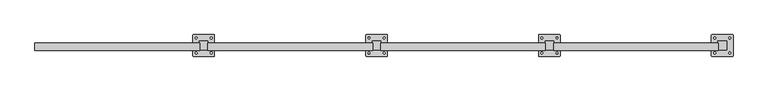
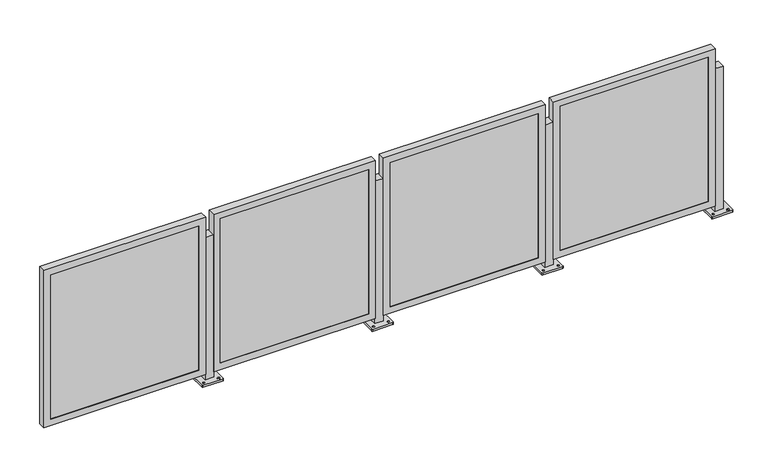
"""IFC4 building model written with IfcOpenShell, lengths in millimetres: railing geometry, Railing - Amico Architectural - Perforated Railing - Apex02."""

from ifc_helpers import new_model, si_unit, frame, origin, place, context, project, spatial, polyline, circle_curve, outline, extrude, faceted_brep, source, transform, mapped, element, save
from ifc_brep_helpers import plane_surface, cylinder_surface, revolved_surface, advanced_brep


def railing_0f50bcc0(model_context):
    return source(origin(), model_context, "Body", "SolidModel", [
        advanced_brep(
        [(-18857.3286619, -908.4679764, 914.4), (-18857.3286619, -959.2679764, 914.4), (-18806.5286619, -959.2679764, 914.4), (-18806.5286619, -908.4679764, 914.4), (-18895.428662, -994.1929354, 0.0), (-18895.428662, -873.5430174, 0.0), (-18892.2536339, -870.3679893, 0.0), (-18771.6036899, -870.3679893, 0.0), (-18768.4286617, -873.5430174, 0.0), (-18768.4286617, -994.1929354, 0.0), (-18771.6036899, -997.3679635, 0.0), (-18892.2536339, -997.3679635, 0.0), (-18876.3786494, -983.874231, 0.0), (-18876.3786494, -972.7617186, 0.0), (-18876.3786603, -894.9742267, 0.0), (-18876.3786603, -883.8617451, 0.0), (-18787.4786485, -983.8742295, 0.0), (-18787.4786485, -972.7617189, 0.0), (-18787.4786594, -894.9742251, 0.0), (-18787.4786594, -883.8617453, 0.0), (-18857.3286619, -908.4679764, 12.7), (-18857.3286619, -959.2679764, 12.7), (-18806.5286619, -959.2679764, 12.7), (-18806.5286619, -908.4679764, 12.7), (-18895.428662, -994.1929354, 12.7), (-18892.2536339, -997.3679635, 12.7), (-18771.6036899, -997.3679635, 12.7), (-18768.4286617, -994.1929354, 12.7), (-18768.4286617, -873.5430174, 12.7), (-18771.6036899, -870.3679893, 12.7), (-18892.2536339, -870.3679893, 12.7), (-18895.428662, -873.5430174, 12.7), (-18876.3786494, -983.874231, 12.7), (-18876.3786494, -972.7617186, 12.7), (-18876.3786603, -894.9742267, 12.7), (-18876.3786603, -883.8617451, 12.7), (-18787.4786485, -983.8742295, 12.7), (-18787.4786485, -972.7617189, 12.7), (-18787.4786594, -894.9742251, 12.7), (-18787.4786594, -883.8617453, 12.7)],
        [
            (0, 1),
            (1, 2),
            (2, 3),
            (3, 0),
            (4, 5),
            (5, 6, circle_curve(frame((-18892.2536339, -873.5430174, 0.0), z_axis=(0.0, 0.0, -1.0), x_axis=(0.0, 1.0, 0.0)), 3.1750282)),
            (6, 7),
            (7, 8, circle_curve(frame((-18771.6036899, -873.5430174, 0.0), z_axis=(0.0, 0.0, -1.0), x_axis=(0.0, 1.0, 0.0)), 3.1750282)),
            (8, 9),
            (9, 10, circle_curve(frame((-18771.6036899, -994.1929354, 0.0), z_axis=(0.0, 0.0, -1.0), x_axis=(0.0, 1.0, 0.0)), 3.1750282)),
            (10, 11),
            (11, 4, circle_curve(frame((-18892.2536339, -994.1929354, 0.0), z_axis=(0.0, 0.0, -1.0), x_axis=(0.0, 1.0, 0.0)), 3.1750282)),
            (12, 13, circle_curve(frame((-18876.3786494, -978.3179748, 0.0), z_axis=(0.0, 0.0, 1.0), x_axis=(0.0, 1.0, 0.0)), 5.5562562)),
            (13, 12, circle_curve(frame((-18876.3786494, -978.3179748, 0.0), z_axis=(0.0, 0.0, 1.0), x_axis=(0.0, 1.0, 0.0)), 5.5562562)),
            (14, 15, circle_curve(frame((-18876.3786603, -889.4179859, 0.0), z_axis=(0.0, 0.0, 1.0), x_axis=(0.0, 1.0, 0.0)), 5.5562408)),
            (15, 14, circle_curve(frame((-18876.3786603, -889.4179859, 0.0), z_axis=(0.0, 0.0, 1.0), x_axis=(0.0, 1.0, 0.0)), 5.5562408)),
            (16, 17, circle_curve(frame((-18787.4786485, -978.3179742, 0.0), z_axis=(0.0, 0.0, 1.0), x_axis=(0.0, 1.0, 0.0)), 5.5562553)),
            (17, 16, circle_curve(frame((-18787.4786485, -978.3179742, 0.0), z_axis=(0.0, 0.0, 1.0), x_axis=(0.0, 1.0, 0.0)), 5.5562553)),
            (18, 19, circle_curve(frame((-18787.4786594, -889.4179852, 0.0), z_axis=(0.0, 0.0, 1.0), x_axis=(0.0, 1.0, 0.0)), 5.5562399)),
            (19, 18, circle_curve(frame((-18787.4786594, -889.4179852, 0.0), z_axis=(0.0, 0.0, 1.0), x_axis=(0.0, 1.0, 0.0)), 5.5562399)),
            (0, 20),
            (20, 21),
            (21, 1),
            (21, 22),
            (22, 2),
            (22, 23),
            (23, 3),
            (23, 20),
            (24, 25, circle_curve(frame((-18892.2536339, -994.1929354, 12.7), z_axis=(0.0, 0.0, 1.0), x_axis=(0.0, 1.0, 0.0)), 3.1750282)),
            (25, 26),
            (26, 27, circle_curve(frame((-18771.6036899, -994.1929354, 12.7), z_axis=(0.0, 0.0, 1.0), x_axis=(0.0, 1.0, 0.0)), 3.1750282)),
            (27, 28),
            (28, 29, circle_curve(frame((-18771.6036899, -873.5430174, 12.7), z_axis=(0.0, 0.0, 1.0), x_axis=(0.0, 1.0, 0.0)), 3.1750282)),
            (29, 30),
            (30, 31, circle_curve(frame((-18892.2536339, -873.5430174, 12.7), z_axis=(0.0, 0.0, 1.0), x_axis=(0.0, 1.0, 0.0)), 3.1750282)),
            (31, 24),
            (32, 33, circle_curve(frame((-18876.3786494, -978.3179748, 12.7), z_axis=(0.0, 0.0, -1.0), x_axis=(0.0, 1.0, 0.0)), 5.5562562)),
            (33, 32, circle_curve(frame((-18876.3786494, -978.3179748, 12.7), z_axis=(0.0, 0.0, -1.0), x_axis=(0.0, 1.0, 0.0)), 5.5562562)),
            (34, 35, circle_curve(frame((-18876.3786603, -889.4179859, 12.7), z_axis=(0.0, 0.0, -1.0), x_axis=(0.0, 1.0, 0.0)), 5.5562408)),
            (35, 34, circle_curve(frame((-18876.3786603, -889.4179859, 12.7), z_axis=(0.0, 0.0, -1.0), x_axis=(0.0, 1.0, 0.0)), 5.5562408)),
            (36, 37, circle_curve(frame((-18787.4786485, -978.3179742, 12.7), z_axis=(0.0, 0.0, -1.0), x_axis=(0.0, 1.0, 0.0)), 5.5562553)),
            (37, 36, circle_curve(frame((-18787.4786485, -978.3179742, 12.7), z_axis=(0.0, 0.0, -1.0), x_axis=(0.0, 1.0, 0.0)), 5.5562553)),
            (38, 39, circle_curve(frame((-18787.4786594, -889.4179852, 12.7), z_axis=(0.0, 0.0, -1.0), x_axis=(0.0, 1.0, 0.0)), 5.5562399)),
            (39, 38, circle_curve(frame((-18787.4786594, -889.4179852, 12.7), z_axis=(0.0, 0.0, -1.0), x_axis=(0.0, 1.0, 0.0)), 5.5562399)),
            (24, 4),
            (11, 25),
            (10, 26),
            (9, 27),
            (8, 28),
            (7, 29),
            (6, 30),
            (5, 31),
            (32, 12),
            (13, 33),
            (34, 14),
            (15, 35),
            (36, 16),
            (17, 37),
            (38, 18),
            (19, 39),
        ],
        [
            plane_surface(frame((-18857.3286619, -959.2679764, 914.4), z_axis=(0.0, 0.0, 1.0), x_axis=(0.0, -1.0, 0.0))),
            plane_surface(frame((-18857.3286619, -959.2679764, 0.0), z_axis=(0.0, 0.0, -1.0), x_axis=(0.0, 1.0, 0.0))),
            plane_surface(frame((-18857.3286619, -908.4679764, 914.4), z_axis=(-1.0, 0.0, 0.0), x_axis=(0.0, 0.0, -1.0))),
            plane_surface(frame((-18857.3286619, -959.2679764, 914.4), z_axis=(0.0, -1.0, 0.0), x_axis=(0.0, 0.0, -1.0))),
            plane_surface(frame((-18806.5286619, -959.2679764, 914.4), z_axis=(1.0, 0.0, 0.0), x_axis=(0.0, 0.0, -1.0))),
            plane_surface(frame((-18806.5286619, -908.4679764, 914.4), z_axis=(0.0, 1.0, 0.0), x_axis=(0.0, 0.0, -1.0))),
            plane_surface(frame((-18892.2536339, -991.0179072, 12.7), z_axis=(0.0, 0.0, 1.0), x_axis=(-1.0, 0.0, 0.0))),
            cylinder_surface(frame((-18892.2536339, -994.1929354, 0.0), z_axis=(0.0, 0.0, 1.0), x_axis=(0.0, 1.0, 0.0)), 3.1750282),
            plane_surface(frame((-18892.2536339, -997.3679635, 12.7), z_axis=(1.1945386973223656e-12, -1.0, 0.0), x_axis=(0.0, 0.0, -1.0))),
            cylinder_surface(frame((-18771.6036899, -994.1929354, 0.0), z_axis=(0.0, 0.0, 1.0), x_axis=(0.0, 1.0, 0.0)), 3.1750282),
            plane_surface(frame((-18768.4286617, -994.1929354, 12.7), z_axis=(1.0, 0.0, 0.0), x_axis=(0.0, 0.0, -1.0))),
            cylinder_surface(frame((-18771.6036899, -873.5430174, 0.0), z_axis=(0.0, 0.0, 1.0), x_axis=(0.0, 1.0, 0.0)), 3.1750282),
            plane_surface(frame((-18771.6036899, -870.3679893, 12.7), z_axis=(-1.1946088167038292e-12, 1.0, 0.0), x_axis=(0.0, 0.0, -1.0))),
            cylinder_surface(frame((-18892.2536339, -873.5430174, 0.0), z_axis=(0.0, 0.0, 1.0), x_axis=(0.0, 1.0, 0.0)), 3.1750282),
            plane_surface(frame((-18895.428662, -873.5430174, 12.7), z_axis=(-1.0, 0.0, 0.0), x_axis=(0.0, 0.0, -1.0))),
            revolved_surface(polyline([(-18876.3786494, -972.7617186, 0.0), (-18876.3786494, -972.7617186, 12.7)]), (-18876.3786494, -978.3179748, 0.0), (0.0, 0.0, -1.0)),
            revolved_surface(polyline([(-18876.3786603, -883.8617451, 0.0), (-18876.3786603, -883.8617451, 12.7)]), (-18876.3786603, -889.4179859, 0.0), (0.0, 0.0, -1.0)),
            revolved_surface(polyline([(-18787.4786485, -972.7617189, 0.0), (-18787.4786485, -972.7617189, 12.7)]), (-18787.4786485, -978.3179742, 0.0), (0.0, 0.0, -1.0)),
            revolved_surface(polyline([(-18787.4786594, -883.8617452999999, 0.0), (-18787.4786594, -883.8617452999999, 12.7)]), (-18787.4786594, -889.4179852, 0.0), (0.0, 0.0, -1.0)),
        ],
        [
            (0, [[1, 2, 3, 4]]),
            (1, [[5, 6, 7, 8, 9, 10, 11, 12], [13, 14], [15, 16], [17, 18], [19, 20]]),
            (2, [[-1, 21, 22, 23]]),
            (3, [[-2, -23, 24, 25]]),
            (4, [[-3, -25, 26, 27]]),
            (5, [[-4, -27, 28, -21]]),
            (6, [[29, 30, 31, 32, 33, 34, 35, 36], [-22, -28, -26, -24], [37, 38], [39, 40], [41, 42], [43, 44]]),
            (7, [[-29, 45, -12, 46]]),
            (8, [[-30, -46, -11, 47]]),
            (9, [[-31, -47, -10, 48]]),
            (10, [[-32, -48, -9, 49]]),
            (11, [[-33, -49, -8, 50]]),
            (12, [[-34, -50, -7, 51]]),
            (13, [[-35, -51, -6, 52]]),
            (14, [[-36, -52, -5, -45]]),
            (15, [[-37, 53, -14, 54]]),
            (15, [[-38, -54, -13, -53]]),
            (16, [[-39, 55, -16, 56]]),
            (16, [[-40, -56, -15, -55]]),
            (17, [[-41, 57, -18, 58]]),
            (17, [[-42, -58, -17, -57]]),
            (18, [[-43, 59, -20, 60]]),
            (18, [[-44, -60, -19, -59]]),
        ],
    ),
        faceted_brep([(-19823.7331153, -962.0111764, 47.625), (-18855.3581153, -962.0111764, 47.625), (-18855.3581153, -962.0111764, 1044.575), (-19823.7331153, -962.0111764, 1044.575), (-19782.4581153, -962.0111764, 1003.3), (-18896.6331153, -962.0111764, 1003.3), (-18896.6331153, -962.0111764, 88.9), (-19782.4581153, -962.0111764, 88.9), (-19782.4581153, -959.2679764, 1003.3), (-19782.4581153, -959.2679764, 88.9), (-19823.7331153, -918.1378799, 1044.575), (-19823.7331153, -918.1378799, 47.625), (-19820.5581153, -918.1378799, 1041.4), (-19820.5581153, -959.2679764, 1041.4), (-19820.5581153, -959.2679764, 50.8), (-19820.5581153, -918.1378799, 50.8), (-18896.6331153, -959.2679764, 88.9), (-18855.3581153, -918.1378799, 47.625), (-18858.5331153, -959.2679764, 50.8), (-18858.5331153, -918.1378799, 50.8), (-18896.6331153, -959.2679764, 1003.3), (-18855.3581153, -918.1378799, 1044.575), (-18858.5331153, -959.2679764, 1041.4), (-18858.5331153, -918.1378799, 1041.4)], [[[0, 1, 2, 3], [4, 5, 6, 7]], [[8, 4, 7, 9]], [[3, 10, 11, 0]], [[12, 13, 14, 15]], [[9, 7, 6, 16]], [[0, 11, 17, 1]], [[15, 14, 18, 19]], [[16, 6, 5, 20]], [[1, 17, 21, 2]], [[19, 18, 22, 23]], [[20, 5, 4, 8]], [[10, 21, 17, 11], [15, 19, 23, 12]], [[2, 21, 10, 3]], [[13, 22, 18, 14], [9, 16, 20, 8]], [[23, 22, 13, 12]]]),
        extrude(outline(polyline([(-19820.5581153, -949.7429764), (-18858.5331153, -949.7429764), (-18858.5331153, -959.2679764), (-19820.5581153, -959.2679764), (-19820.5581153, -949.7429764)])), frame((0.0, 0.0, 50.8), z_axis=(0.0, 0.0, 1.0), x_axis=(1.0, 0.0, 0.0)), (0.0, 0.0, 1.0), 990.6),
        advanced_brep(
        [(-19873.3286619, -908.4679764, 914.4), (-19873.3286619, -959.2679764, 914.4), (-19822.5286619, -959.2679764, 914.4), (-19822.5286619, -908.4679764, 914.4), (-19911.428662, -994.1929354, 0.0), (-19911.428662, -873.5430174, 0.0), (-19908.2536339, -870.3679893, 0.0), (-19787.6036899, -870.3679893, 0.0), (-19784.4286617, -873.5430174, 0.0), (-19784.4286617, -994.1929354, 0.0), (-19787.6036899, -997.3679635, 0.0), (-19908.2536339, -997.3679635, 0.0), (-19892.3786494, -983.874231, 0.0), (-19892.3786494, -972.7617186, 0.0), (-19892.3786603, -894.9742267, 0.0), (-19892.3786603, -883.8617451, 0.0), (-19803.4786485, -983.8742295, 0.0), (-19803.4786485, -972.7617189, 0.0), (-19803.4786594, -894.9742251, 0.0), (-19803.4786594, -883.8617453, 0.0), (-19873.3286619, -908.4679764, 12.7), (-19873.3286619, -959.2679764, 12.7), (-19822.5286619, -959.2679764, 12.7), (-19822.5286619, -908.4679764, 12.7), (-19911.428662, -994.1929354, 12.7), (-19908.2536339, -997.3679635, 12.7), (-19787.6036899, -997.3679635, 12.7), (-19784.4286617, -994.1929354, 12.7), (-19784.4286617, -873.5430174, 12.7), (-19787.6036899, -870.3679893, 12.7), (-19908.2536339, -870.3679893, 12.7), (-19911.428662, -873.5430174, 12.7), (-19892.3786494, -983.874231, 12.7), (-19892.3786494, -972.7617186, 12.7), (-19892.3786603, -894.9742267, 12.7), (-19892.3786603, -883.8617451, 12.7), (-19803.4786485, -983.8742295, 12.7), (-19803.4786485, -972.7617189, 12.7), (-19803.4786594, -894.9742251, 12.7), (-19803.4786594, -883.8617453, 12.7)],
        [
            (0, 1),
            (1, 2),
            (2, 3),
            (3, 0),
            (4, 5),
            (5, 6, circle_curve(frame((-19908.2536339, -873.5430174, 0.0), z_axis=(0.0, 0.0, -1.0), x_axis=(0.0, 1.0, 0.0)), 3.1750282)),
            (6, 7),
            (7, 8, circle_curve(frame((-19787.6036899, -873.5430174, 0.0), z_axis=(0.0, 0.0, -1.0), x_axis=(0.0, 1.0, 0.0)), 3.1750282)),
            (8, 9),
            (9, 10, circle_curve(frame((-19787.6036899, -994.1929354, 0.0), z_axis=(0.0, 0.0, -1.0), x_axis=(0.0, 1.0, 0.0)), 3.1750282)),
            (10, 11),
            (11, 4, circle_curve(frame((-19908.2536339, -994.1929354, 0.0), z_axis=(0.0, 0.0, -1.0), x_axis=(0.0, 1.0, 0.0)), 3.1750282)),
            (12, 13, circle_curve(frame((-19892.3786494, -978.3179748, 0.0), z_axis=(0.0, 0.0, 1.0), x_axis=(0.0, 1.0, 0.0)), 5.5562562)),
            (13, 12, circle_curve(frame((-19892.3786494, -978.3179748, 0.0), z_axis=(0.0, 0.0, 1.0), x_axis=(0.0, 1.0, 0.0)), 5.5562562)),
            (14, 15, circle_curve(frame((-19892.3786603, -889.4179859, 0.0), z_axis=(0.0, 0.0, 1.0), x_axis=(0.0, 1.0, 0.0)), 5.5562408)),
            (15, 14, circle_curve(frame((-19892.3786603, -889.4179859, 0.0), z_axis=(0.0, 0.0, 1.0), x_axis=(0.0, 1.0, 0.0)), 5.5562408)),
            (16, 17, circle_curve(frame((-19803.4786485, -978.3179742, 0.0), z_axis=(0.0, 0.0, 1.0), x_axis=(0.0, 1.0, 0.0)), 5.5562553)),
            (17, 16, circle_curve(frame((-19803.4786485, -978.3179742, 0.0), z_axis=(0.0, 0.0, 1.0), x_axis=(0.0, 1.0, 0.0)), 5.5562553)),
            (18, 19, circle_curve(frame((-19803.4786594, -889.4179852, 0.0), z_axis=(0.0, 0.0, 1.0), x_axis=(0.0, 1.0, 0.0)), 5.5562399)),
            (19, 18, circle_curve(frame((-19803.4786594, -889.4179852, 0.0), z_axis=(0.0, 0.0, 1.0), x_axis=(0.0, 1.0, 0.0)), 5.5562399)),
            (0, 20),
            (20, 21),
            (21, 1),
            (21, 22),
            (22, 2),
            (22, 23),
            (23, 3),
            (23, 20),
            (24, 25, circle_curve(frame((-19908.2536339, -994.1929354, 12.7), z_axis=(0.0, 0.0, 1.0), x_axis=(0.0, 1.0, 0.0)), 3.1750282)),
            (25, 26),
            (26, 27, circle_curve(frame((-19787.6036899, -994.1929354, 12.7), z_axis=(0.0, 0.0, 1.0), x_axis=(0.0, 1.0, 0.0)), 3.1750282)),
            (27, 28),
            (28, 29, circle_curve(frame((-19787.6036899, -873.5430174, 12.7), z_axis=(0.0, 0.0, 1.0), x_axis=(0.0, 1.0, 0.0)), 3.1750282)),
            (29, 30),
            (30, 31, circle_curve(frame((-19908.2536339, -873.5430174, 12.7), z_axis=(0.0, 0.0, 1.0), x_axis=(0.0, 1.0, 0.0)), 3.1750282)),
            (31, 24),
            (32, 33, circle_curve(frame((-19892.3786494, -978.3179748, 12.7), z_axis=(0.0, 0.0, -1.0), x_axis=(0.0, 1.0, 0.0)), 5.5562562)),
            (33, 32, circle_curve(frame((-19892.3786494, -978.3179748, 12.7), z_axis=(0.0, 0.0, -1.0), x_axis=(0.0, 1.0, 0.0)), 5.5562562)),
            (34, 35, circle_curve(frame((-19892.3786603, -889.4179859, 12.7), z_axis=(0.0, 0.0, -1.0), x_axis=(0.0, 1.0, 0.0)), 5.5562408)),
            (35, 34, circle_curve(frame((-19892.3786603, -889.4179859, 12.7), z_axis=(0.0, 0.0, -1.0), x_axis=(0.0, 1.0, 0.0)), 5.5562408)),
            (36, 37, circle_curve(frame((-19803.4786485, -978.3179742, 12.7), z_axis=(0.0, 0.0, -1.0), x_axis=(0.0, 1.0, 0.0)), 5.5562553)),
            (37, 36, circle_curve(frame((-19803.4786485, -978.3179742, 12.7), z_axis=(0.0, 0.0, -1.0), x_axis=(0.0, 1.0, 0.0)), 5.5562553)),
            (38, 39, circle_curve(frame((-19803.4786594, -889.4179852, 12.7), z_axis=(0.0, 0.0, -1.0), x_axis=(0.0, 1.0, 0.0)), 5.5562399)),
            (39, 38, circle_curve(frame((-19803.4786594, -889.4179852, 12.7), z_axis=(0.0, 0.0, -1.0), x_axis=(0.0, 1.0, 0.0)), 5.5562399)),
            (24, 4),
            (11, 25),
            (10, 26),
            (9, 27),
            (8, 28),
            (7, 29),
            (6, 30),
            (5, 31),
            (32, 12),
            (13, 33),
            (34, 14),
            (15, 35),
            (36, 16),
            (17, 37),
            (38, 18),
            (19, 39),
        ],
        [
            plane_surface(frame((-19873.3286619, -959.2679764, 914.4), z_axis=(0.0, 0.0, 1.0), x_axis=(0.0, -1.0, 0.0))),
            plane_surface(frame((-19873.3286619, -959.2679764, 0.0), z_axis=(0.0, 0.0, -1.0), x_axis=(0.0, 1.0, 0.0))),
            plane_surface(frame((-19873.3286619, -908.4679764, 914.4), z_axis=(-1.0, 0.0, 0.0), x_axis=(0.0, 0.0, -1.0))),
            plane_surface(frame((-19873.3286619, -959.2679764, 914.4), z_axis=(0.0, -1.0, 0.0), x_axis=(0.0, 0.0, -1.0))),
            plane_surface(frame((-19822.5286619, -959.2679764, 914.4), z_axis=(1.0, 0.0, 0.0), x_axis=(0.0, 0.0, -1.0))),
            plane_surface(frame((-19822.5286619, -908.4679764, 914.4), z_axis=(0.0, 1.0, 0.0), x_axis=(0.0, 0.0, -1.0))),
            plane_surface(frame((-19908.2536339, -991.0179072, 12.7), z_axis=(0.0, 0.0, 1.0), x_axis=(-1.0, 0.0, 0.0))),
            cylinder_surface(frame((-19908.2536339, -994.1929354, 0.0), z_axis=(0.0, 0.0, 1.0), x_axis=(0.0, 1.0, 0.0)), 3.1750282),
            plane_surface(frame((-19908.2536339, -997.3679635, 12.7), z_axis=(1.1945386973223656e-12, -1.0, 0.0), x_axis=(0.0, 0.0, -1.0))),
            cylinder_surface(frame((-19787.6036899, -994.1929354, 0.0), z_axis=(0.0, 0.0, 1.0), x_axis=(0.0, 1.0, 0.0)), 3.1750282),
            plane_surface(frame((-19784.4286617, -994.1929354, 12.7), z_axis=(1.0, 0.0, 0.0), x_axis=(0.0, 0.0, -1.0))),
            cylinder_surface(frame((-19787.6036899, -873.5430174, 0.0), z_axis=(0.0, 0.0, 1.0), x_axis=(0.0, 1.0, 0.0)), 3.1750282),
            plane_surface(frame((-19787.6036899, -870.3679893, 12.7), z_axis=(-1.1946088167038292e-12, 1.0, 0.0), x_axis=(0.0, 0.0, -1.0))),
            cylinder_surface(frame((-19908.2536339, -873.5430174, 0.0), z_axis=(0.0, 0.0, 1.0), x_axis=(0.0, 1.0, 0.0)), 3.1750282),
            plane_surface(frame((-19911.428662, -873.5430174, 12.7), z_axis=(-1.0, 0.0, 0.0), x_axis=(0.0, 0.0, -1.0))),
            revolved_surface(polyline([(-19892.3786494, -972.7617186, 0.0), (-19892.3786494, -972.7617186, 12.7)]), (-19892.3786494, -978.3179748, 0.0), (0.0, 0.0, -1.0)),
            revolved_surface(polyline([(-19892.3786603, -883.8617451, 0.0), (-19892.3786603, -883.8617451, 12.7)]), (-19892.3786603, -889.4179859, 0.0), (0.0, 0.0, -1.0)),
            revolved_surface(polyline([(-19803.4786485, -972.7617189, 0.0), (-19803.4786485, -972.7617189, 12.7)]), (-19803.4786485, -978.3179742, 0.0), (0.0, 0.0, -1.0)),
            revolved_surface(polyline([(-19803.4786594, -883.8617452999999, 0.0), (-19803.4786594, -883.8617452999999, 12.7)]), (-19803.4786594, -889.4179852, 0.0), (0.0, 0.0, -1.0)),
        ],
        [
            (0, [[1, 2, 3, 4]]),
            (1, [[5, 6, 7, 8, 9, 10, 11, 12], [13, 14], [15, 16], [17, 18], [19, 20]]),
            (2, [[-1, 21, 22, 23]]),
            (3, [[-2, -23, 24, 25]]),
            (4, [[-3, -25, 26, 27]]),
            (5, [[-4, -27, 28, -21]]),
            (6, [[29, 30, 31, 32, 33, 34, 35, 36], [-22, -28, -26, -24], [37, 38], [39, 40], [41, 42], [43, 44]]),
            (7, [[-29, 45, -12, 46]]),
            (8, [[-30, -46, -11, 47]]),
            (9, [[-31, -47, -10, 48]]),
            (10, [[-32, -48, -9, 49]]),
            (11, [[-33, -49, -8, 50]]),
            (12, [[-34, -50, -7, 51]]),
            (13, [[-35, -51, -6, 52]]),
            (14, [[-36, -52, -5, -45]]),
            (15, [[-37, 53, -14, 54]]),
            (15, [[-38, -54, -13, -53]]),
            (16, [[-39, 55, -16, 56]]),
            (16, [[-40, -56, -15, -55]]),
            (17, [[-41, 57, -18, 58]]),
            (17, [[-42, -58, -17, -57]]),
            (18, [[-43, 59, -20, 60]]),
            (18, [[-44, -60, -19, -59]]),
        ],
    ),
        faceted_brep([(-20839.7331153, -962.0111764, 47.625), (-19871.3581153, -962.0111764, 47.625), (-19871.3581153, -962.0111764, 1044.575), (-20839.7331153, -962.0111764, 1044.575), (-20798.4581153, -962.0111764, 1003.3), (-19912.6331153, -962.0111764, 1003.3), (-19912.6331153, -962.0111764, 88.9), (-20798.4581153, -962.0111764, 88.9), (-20798.4581153, -959.2679764, 1003.3), (-20798.4581153, -959.2679764, 88.9), (-20839.7331153, -918.1378799, 1044.575), (-20839.7331153, -918.1378799, 47.625), (-20836.5581153, -918.1378799, 1041.4), (-20836.5581153, -959.2679764, 1041.4), (-20836.5581153, -959.2679764, 50.8), (-20836.5581153, -918.1378799, 50.8), (-19912.6331153, -959.2679764, 88.9), (-19871.3581153, -918.1378799, 47.625), (-19874.5331153, -959.2679764, 50.8), (-19874.5331153, -918.1378799, 50.8), (-19912.6331153, -959.2679764, 1003.3), (-19871.3581153, -918.1378799, 1044.575), (-19874.5331153, -959.2679764, 1041.4), (-19874.5331153, -918.1378799, 1041.4)], [[[0, 1, 2, 3], [4, 5, 6, 7]], [[8, 4, 7, 9]], [[3, 10, 11, 0]], [[12, 13, 14, 15]], [[9, 7, 6, 16]], [[0, 11, 17, 1]], [[15, 14, 18, 19]], [[16, 6, 5, 20]], [[1, 17, 21, 2]], [[19, 18, 22, 23]], [[20, 5, 4, 8]], [[10, 21, 17, 11], [15, 19, 23, 12]], [[2, 21, 10, 3]], [[13, 22, 18, 14], [9, 16, 20, 8]], [[23, 22, 13, 12]]]),
        extrude(outline(polyline([(-20836.5581153, -949.7429764), (-19874.5331153, -949.7429764), (-19874.5331153, -959.2679764), (-20836.5581153, -959.2679764), (-20836.5581153, -949.7429764)])), frame((0.0, 0.0, 50.8), z_axis=(0.0, 0.0, 1.0), x_axis=(1.0, 0.0, 0.0)), (0.0, 0.0, 1.0), 990.6),
        advanced_brep(
        [(-20889.3286619, -908.4679764, 914.4), (-20889.3286619, -959.2679764, 914.4), (-20838.5286619, -959.2679764, 914.4), (-20838.5286619, -908.4679764, 914.4), (-20927.428662, -994.1929354, 0.0), (-20927.428662, -873.5430174, 0.0), (-20924.2536339, -870.3679893, 0.0), (-20803.6036899, -870.3679893, 0.0), (-20800.4286617, -873.5430174, 0.0), (-20800.4286617, -994.1929354, 0.0), (-20803.6036899, -997.3679635, 0.0), (-20924.2536339, -997.3679635, 0.0), (-20908.3786494, -983.874231, 0.0), (-20908.3786494, -972.7617186, 0.0), (-20908.3786603, -894.9742267, 0.0), (-20908.3786603, -883.8617451, 0.0), (-20819.4786485, -983.8742295, 0.0), (-20819.4786485, -972.7617189, 0.0), (-20819.4786594, -894.9742251, 0.0), (-20819.4786594, -883.8617453, 0.0), (-20889.3286619, -908.4679764, 12.7), (-20889.3286619, -959.2679764, 12.7), (-20838.5286619, -959.2679764, 12.7), (-20838.5286619, -908.4679764, 12.7), (-20927.428662, -994.1929354, 12.7), (-20924.2536339, -997.3679635, 12.7), (-20803.6036899, -997.3679635, 12.7), (-20800.4286617, -994.1929354, 12.7), (-20800.4286617, -873.5430174, 12.7), (-20803.6036899, -870.3679893, 12.7), (-20924.2536339, -870.3679893, 12.7), (-20927.428662, -873.5430174, 12.7), (-20908.3786494, -983.874231, 12.7), (-20908.3786494, -972.7617186, 12.7), (-20908.3786603, -894.9742267, 12.7), (-20908.3786603, -883.8617451, 12.7), (-20819.4786485, -983.8742295, 12.7), (-20819.4786485, -972.7617189, 12.7), (-20819.4786594, -894.9742251, 12.7), (-20819.4786594, -883.8617453, 12.7)],
        [
            (0, 1),
            (1, 2),
            (2, 3),
            (3, 0),
            (4, 5),
            (5, 6, circle_curve(frame((-20924.2536339, -873.5430174, 0.0), z_axis=(0.0, 0.0, -1.0), x_axis=(0.0, 1.0, 0.0)), 3.1750282)),
            (6, 7),
            (7, 8, circle_curve(frame((-20803.6036899, -873.5430174, 0.0), z_axis=(0.0, 0.0, -1.0), x_axis=(0.0, 1.0, 0.0)), 3.1750282)),
            (8, 9),
            (9, 10, circle_curve(frame((-20803.6036899, -994.1929354, 0.0), z_axis=(0.0, 0.0, -1.0), x_axis=(0.0, 1.0, 0.0)), 3.1750282)),
            (10, 11),
            (11, 4, circle_curve(frame((-20924.2536339, -994.1929354, 0.0), z_axis=(0.0, 0.0, -1.0), x_axis=(0.0, 1.0, 0.0)), 3.1750282)),
            (12, 13, circle_curve(frame((-20908.3786494, -978.3179748, 0.0), z_axis=(0.0, 0.0, 1.0), x_axis=(0.0, 1.0, 0.0)), 5.5562562)),
            (13, 12, circle_curve(frame((-20908.3786494, -978.3179748, 0.0), z_axis=(0.0, 0.0, 1.0), x_axis=(0.0, 1.0, 0.0)), 5.5562562)),
            (14, 15, circle_curve(frame((-20908.3786603, -889.4179859, 0.0), z_axis=(0.0, 0.0, 1.0), x_axis=(0.0, 1.0, 0.0)), 5.5562408)),
            (15, 14, circle_curve(frame((-20908.3786603, -889.4179859, 0.0), z_axis=(0.0, 0.0, 1.0), x_axis=(0.0, 1.0, 0.0)), 5.5562408)),
            (16, 17, circle_curve(frame((-20819.4786485, -978.3179742, 0.0), z_axis=(0.0, 0.0, 1.0), x_axis=(0.0, 1.0, 0.0)), 5.5562553)),
            (17, 16, circle_curve(frame((-20819.4786485, -978.3179742, 0.0), z_axis=(0.0, 0.0, 1.0), x_axis=(0.0, 1.0, 0.0)), 5.5562553)),
            (18, 19, circle_curve(frame((-20819.4786594, -889.4179852, 0.0), z_axis=(0.0, 0.0, 1.0), x_axis=(0.0, 1.0, 0.0)), 5.5562399)),
            (19, 18, circle_curve(frame((-20819.4786594, -889.4179852, 0.0), z_axis=(0.0, 0.0, 1.0), x_axis=(0.0, 1.0, 0.0)), 5.5562399)),
            (0, 20),
            (20, 21),
            (21, 1),
            (21, 22),
            (22, 2),
            (22, 23),
            (23, 3),
            (23, 20),
            (24, 25, circle_curve(frame((-20924.2536339, -994.1929354, 12.7), z_axis=(0.0, 0.0, 1.0), x_axis=(0.0, 1.0, 0.0)), 3.1750282)),
            (25, 26),
            (26, 27, circle_curve(frame((-20803.6036899, -994.1929354, 12.7), z_axis=(0.0, 0.0, 1.0), x_axis=(0.0, 1.0, 0.0)), 3.1750282)),
            (27, 28),
            (28, 29, circle_curve(frame((-20803.6036899, -873.5430174, 12.7), z_axis=(0.0, 0.0, 1.0), x_axis=(0.0, 1.0, 0.0)), 3.1750282)),
            (29, 30),
            (30, 31, circle_curve(frame((-20924.2536339, -873.5430174, 12.7), z_axis=(0.0, 0.0, 1.0), x_axis=(0.0, 1.0, 0.0)), 3.1750282)),
            (31, 24),
            (32, 33, circle_curve(frame((-20908.3786494, -978.3179748, 12.7), z_axis=(0.0, 0.0, -1.0), x_axis=(0.0, 1.0, 0.0)), 5.5562562)),
            (33, 32, circle_curve(frame((-20908.3786494, -978.3179748, 12.7), z_axis=(0.0, 0.0, -1.0), x_axis=(0.0, 1.0, 0.0)), 5.5562562)),
            (34, 35, circle_curve(frame((-20908.3786603, -889.4179859, 12.7), z_axis=(0.0, 0.0, -1.0), x_axis=(0.0, 1.0, 0.0)), 5.5562408)),
            (35, 34, circle_curve(frame((-20908.3786603, -889.4179859, 12.7), z_axis=(0.0, 0.0, -1.0), x_axis=(0.0, 1.0, 0.0)), 5.5562408)),
            (36, 37, circle_curve(frame((-20819.4786485, -978.3179742, 12.7), z_axis=(0.0, 0.0, -1.0), x_axis=(0.0, 1.0, 0.0)), 5.5562553)),
            (37, 36, circle_curve(frame((-20819.4786485, -978.3179742, 12.7), z_axis=(0.0, 0.0, -1.0), x_axis=(0.0, 1.0, 0.0)), 5.5562553)),
            (38, 39, circle_curve(frame((-20819.4786594, -889.4179852, 12.7), z_axis=(0.0, 0.0, -1.0), x_axis=(0.0, 1.0, 0.0)), 5.5562399)),
            (39, 38, circle_curve(frame((-20819.4786594, -889.4179852, 12.7), z_axis=(0.0, 0.0, -1.0), x_axis=(0.0, 1.0, 0.0)), 5.5562399)),
            (24, 4),
            (11, 25),
            (10, 26),
            (9, 27),
            (8, 28),
            (7, 29),
            (6, 30),
            (5, 31),
            (32, 12),
            (13, 33),
            (34, 14),
            (15, 35),
            (36, 16),
            (17, 37),
            (38, 18),
            (19, 39),
        ],
        [
            plane_surface(frame((-20889.3286619, -959.2679764, 914.4), z_axis=(0.0, 0.0, 1.0), x_axis=(0.0, -1.0, 0.0))),
            plane_surface(frame((-20889.3286619, -959.2679764, 0.0), z_axis=(0.0, 0.0, -1.0), x_axis=(0.0, 1.0, 0.0))),
            plane_surface(frame((-20889.3286619, -908.4679764, 914.4), z_axis=(-1.0, 0.0, 0.0), x_axis=(0.0, 0.0, -1.0))),
            plane_surface(frame((-20889.3286619, -959.2679764, 914.4), z_axis=(0.0, -1.0, 0.0), x_axis=(0.0, 0.0, -1.0))),
            plane_surface(frame((-20838.5286619, -959.2679764, 914.4), z_axis=(1.0, 0.0, 0.0), x_axis=(0.0, 0.0, -1.0))),
            plane_surface(frame((-20838.5286619, -908.4679764, 914.4), z_axis=(0.0, 1.0, 0.0), x_axis=(0.0, 0.0, -1.0))),
            plane_surface(frame((-20924.2536339, -991.0179072, 12.7), z_axis=(0.0, 0.0, 1.0), x_axis=(-1.0, 0.0, 0.0))),
            cylinder_surface(frame((-20924.2536339, -994.1929354, 0.0), z_axis=(0.0, 0.0, 1.0), x_axis=(0.0, 1.0, 0.0)), 3.1750282),
            plane_surface(frame((-20924.2536339, -997.3679635, 12.7), z_axis=(1.1945386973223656e-12, -1.0, 0.0), x_axis=(0.0, 0.0, -1.0))),
            cylinder_surface(frame((-20803.6036899, -994.1929354, 0.0), z_axis=(0.0, 0.0, 1.0), x_axis=(0.0, 1.0, 0.0)), 3.1750282),
            plane_surface(frame((-20800.4286617, -994.1929354, 12.7), z_axis=(1.0, 0.0, 0.0), x_axis=(0.0, 0.0, -1.0))),
            cylinder_surface(frame((-20803.6036899, -873.5430174, 0.0), z_axis=(0.0, 0.0, 1.0), x_axis=(0.0, 1.0, 0.0)), 3.1750282),
            plane_surface(frame((-20803.6036899, -870.3679893, 12.7), z_axis=(-1.1946088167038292e-12, 1.0, 0.0), x_axis=(0.0, 0.0, -1.0))),
            cylinder_surface(frame((-20924.2536339, -873.5430174, 0.0), z_axis=(0.0, 0.0, 1.0), x_axis=(0.0, 1.0, 0.0)), 3.1750282),
            plane_surface(frame((-20927.428662, -873.5430174, 12.7), z_axis=(-1.0, 0.0, 0.0), x_axis=(0.0, 0.0, -1.0))),
            revolved_surface(polyline([(-20908.3786494, -972.7617186, 0.0), (-20908.3786494, -972.7617186, 12.7)]), (-20908.3786494, -978.3179748, 0.0), (0.0, 0.0, -1.0)),
            revolved_surface(polyline([(-20908.3786603, -883.8617451, 0.0), (-20908.3786603, -883.8617451, 12.7)]), (-20908.3786603, -889.4179859, 0.0), (0.0, 0.0, -1.0)),
            revolved_surface(polyline([(-20819.4786485, -972.7617189, 0.0), (-20819.4786485, -972.7617189, 12.7)]), (-20819.4786485, -978.3179742, 0.0), (0.0, 0.0, -1.0)),
            revolved_surface(polyline([(-20819.4786594, -883.8617452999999, 0.0), (-20819.4786594, -883.8617452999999, 12.7)]), (-20819.4786594, -889.4179852, 0.0), (0.0, 0.0, -1.0)),
        ],
        [
            (0, [[1, 2, 3, 4]]),
            (1, [[5, 6, 7, 8, 9, 10, 11, 12], [13, 14], [15, 16], [17, 18], [19, 20]]),
            (2, [[-1, 21, 22, 23]]),
            (3, [[-2, -23, 24, 25]]),
            (4, [[-3, -25, 26, 27]]),
            (5, [[-4, -27, 28, -21]]),
            (6, [[29, 30, 31, 32, 33, 34, 35, 36], [-22, -28, -26, -24], [37, 38], [39, 40], [41, 42], [43, 44]]),
            (7, [[-29, 45, -12, 46]]),
            (8, [[-30, -46, -11, 47]]),
            (9, [[-31, -47, -10, 48]]),
            (10, [[-32, -48, -9, 49]]),
            (11, [[-33, -49, -8, 50]]),
            (12, [[-34, -50, -7, 51]]),
            (13, [[-35, -51, -6, 52]]),
            (14, [[-36, -52, -5, -45]]),
            (15, [[-37, 53, -14, 54]]),
            (15, [[-38, -54, -13, -53]]),
            (16, [[-39, 55, -16, 56]]),
            (16, [[-40, -56, -15, -55]]),
            (17, [[-41, 57, -18, 58]]),
            (17, [[-42, -58, -17, -57]]),
            (18, [[-43, 59, -20, 60]]),
            (18, [[-44, -60, -19, -59]]),
        ],
    ),
        faceted_brep([(-21855.7331153, -962.0111764, 47.625), (-20887.3581153, -962.0111764, 47.625), (-20887.3581153, -962.0111764, 1044.575), (-21855.7331153, -962.0111764, 1044.575), (-21814.4581153, -962.0111764, 1003.3), (-20928.6331153, -962.0111764, 1003.3), (-20928.6331153, -962.0111764, 88.9), (-21814.4581153, -962.0111764, 88.9), (-21814.4581153, -959.2679764, 1003.3), (-21814.4581153, -959.2679764, 88.9), (-21855.7331153, -918.1378799, 1044.575), (-21855.7331153, -918.1378799, 47.625), (-21852.5581153, -918.1378799, 1041.4), (-21852.5581153, -959.2679764, 1041.4), (-21852.5581153, -959.2679764, 50.8), (-21852.5581153, -918.1378799, 50.8), (-20928.6331153, -959.2679764, 88.9), (-20887.3581153, -918.1378799, 47.625), (-20890.5331153, -959.2679764, 50.8), (-20890.5331153, -918.1378799, 50.8), (-20928.6331153, -959.2679764, 1003.3), (-20887.3581153, -918.1378799, 1044.575), (-20890.5331153, -959.2679764, 1041.4), (-20890.5331153, -918.1378799, 1041.4)], [[[0, 1, 2, 3], [4, 5, 6, 7]], [[8, 4, 7, 9]], [[3, 10, 11, 0]], [[12, 13, 14, 15]], [[9, 7, 6, 16]], [[0, 11, 17, 1]], [[15, 14, 18, 19]], [[16, 6, 5, 20]], [[1, 17, 21, 2]], [[19, 18, 22, 23]], [[20, 5, 4, 8]], [[10, 21, 17, 11], [15, 19, 23, 12]], [[2, 21, 10, 3]], [[13, 22, 18, 14], [9, 16, 20, 8]], [[23, 22, 13, 12]]]),
        extrude(outline(polyline([(-21852.5581153, -949.7429764), (-20890.5331153, -949.7429764), (-20890.5331153, -959.2679764), (-21852.5581153, -959.2679764), (-21852.5581153, -949.7429764)])), frame((0.0, 0.0, 50.8), z_axis=(0.0, 0.0, 1.0), x_axis=(1.0, 0.0, 0.0)), (0.0, 0.0, 1.0), 990.6),
        advanced_brep(
        [(-21905.3286619, -908.4679764, 914.4), (-21905.3286619, -959.2679764, 914.4), (-21854.5286619, -959.2679764, 914.4), (-21854.5286619, -908.4679764, 914.4), (-21943.428662, -994.1929354, 0.0), (-21943.428662, -873.5430174, 0.0), (-21940.2536339, -870.3679893, 0.0), (-21819.6036899, -870.3679893, 0.0), (-21816.4286617, -873.5430174, 0.0), (-21816.4286617, -994.1929354, 0.0), (-21819.6036899, -997.3679635, 0.0), (-21940.2536339, -997.3679635, 0.0), (-21924.3786494, -983.874231, 0.0), (-21924.3786494, -972.7617186, 0.0), (-21924.3786603, -894.9742267, 0.0), (-21924.3786603, -883.8617451, 0.0), (-21835.4786485, -983.8742295, 0.0), (-21835.4786485, -972.7617189, 0.0), (-21835.4786594, -894.9742251, 0.0), (-21835.4786594, -883.8617453, 0.0), (-21905.3286619, -908.4679764, 12.7), (-21905.3286619, -959.2679764, 12.7), (-21854.5286619, -959.2679764, 12.7), (-21854.5286619, -908.4679764, 12.7), (-21943.428662, -994.1929354, 12.7), (-21940.2536339, -997.3679635, 12.7), (-21819.6036899, -997.3679635, 12.7), (-21816.4286617, -994.1929354, 12.7), (-21816.4286617, -873.5430174, 12.7), (-21819.6036899, -870.3679893, 12.7), (-21940.2536339, -870.3679893, 12.7), (-21943.428662, -873.5430174, 12.7), (-21924.3786494, -983.874231, 12.7), (-21924.3786494, -972.7617186, 12.7), (-21924.3786603, -894.9742267, 12.7), (-21924.3786603, -883.8617451, 12.7), (-21835.4786485, -983.8742295, 12.7), (-21835.4786485, -972.7617189, 12.7), (-21835.4786594, -894.9742251, 12.7), (-21835.4786594, -883.8617453, 12.7)],
        [
            (0, 1),
            (1, 2),
            (2, 3),
            (3, 0),
            (4, 5),
            (5, 6, circle_curve(frame((-21940.2536339, -873.5430174, 0.0), z_axis=(0.0, 0.0, -1.0), x_axis=(0.0, 1.0, 0.0)), 3.1750282)),
            (6, 7),
            (7, 8, circle_curve(frame((-21819.6036899, -873.5430174, 0.0), z_axis=(0.0, 0.0, -1.0), x_axis=(0.0, 1.0, 0.0)), 3.1750282)),
            (8, 9),
            (9, 10, circle_curve(frame((-21819.6036899, -994.1929354, 0.0), z_axis=(0.0, 0.0, -1.0), x_axis=(0.0, 1.0, 0.0)), 3.1750282)),
            (10, 11),
            (11, 4, circle_curve(frame((-21940.2536339, -994.1929354, 0.0), z_axis=(0.0, 0.0, -1.0), x_axis=(0.0, 1.0, 0.0)), 3.1750282)),
            (12, 13, circle_curve(frame((-21924.3786494, -978.3179748, 0.0), z_axis=(0.0, 0.0, 1.0), x_axis=(0.0, 1.0, 0.0)), 5.5562562)),
            (13, 12, circle_curve(frame((-21924.3786494, -978.3179748, 0.0), z_axis=(0.0, 0.0, 1.0), x_axis=(0.0, 1.0, 0.0)), 5.5562562)),
            (14, 15, circle_curve(frame((-21924.3786603, -889.4179859, 0.0), z_axis=(0.0, 0.0, 1.0), x_axis=(0.0, 1.0, 0.0)), 5.5562408)),
            (15, 14, circle_curve(frame((-21924.3786603, -889.4179859, 0.0), z_axis=(0.0, 0.0, 1.0), x_axis=(0.0, 1.0, 0.0)), 5.5562408)),
            (16, 17, circle_curve(frame((-21835.4786485, -978.3179742, 0.0), z_axis=(0.0, 0.0, 1.0), x_axis=(0.0, 1.0, 0.0)), 5.5562553)),
            (17, 16, circle_curve(frame((-21835.4786485, -978.3179742, 0.0), z_axis=(0.0, 0.0, 1.0), x_axis=(0.0, 1.0, 0.0)), 5.5562553)),
            (18, 19, circle_curve(frame((-21835.4786594, -889.4179852, 0.0), z_axis=(0.0, 0.0, 1.0), x_axis=(0.0, 1.0, 0.0)), 5.5562399)),
            (19, 18, circle_curve(frame((-21835.4786594, -889.4179852, 0.0), z_axis=(0.0, 0.0, 1.0), x_axis=(0.0, 1.0, 0.0)), 5.5562399)),
            (0, 20),
            (20, 21),
            (21, 1),
            (21, 22),
            (22, 2),
            (22, 23),
            (23, 3),
            (23, 20),
            (24, 25, circle_curve(frame((-21940.2536339, -994.1929354, 12.7), z_axis=(0.0, 0.0, 1.0), x_axis=(0.0, 1.0, 0.0)), 3.1750282)),
            (25, 26),
            (26, 27, circle_curve(frame((-21819.6036899, -994.1929354, 12.7), z_axis=(0.0, 0.0, 1.0), x_axis=(0.0, 1.0, 0.0)), 3.1750282)),
            (27, 28),
            (28, 29, circle_curve(frame((-21819.6036899, -873.5430174, 12.7), z_axis=(0.0, 0.0, 1.0), x_axis=(0.0, 1.0, 0.0)), 3.1750282)),
            (29, 30),
            (30, 31, circle_curve(frame((-21940.2536339, -873.5430174, 12.7), z_axis=(0.0, 0.0, 1.0), x_axis=(0.0, 1.0, 0.0)), 3.1750282)),
            (31, 24),
            (32, 33, circle_curve(frame((-21924.3786494, -978.3179748, 12.7), z_axis=(0.0, 0.0, -1.0), x_axis=(0.0, 1.0, 0.0)), 5.5562562)),
            (33, 32, circle_curve(frame((-21924.3786494, -978.3179748, 12.7), z_axis=(0.0, 0.0, -1.0), x_axis=(0.0, 1.0, 0.0)), 5.5562562)),
            (34, 35, circle_curve(frame((-21924.3786603, -889.4179859, 12.7), z_axis=(0.0, 0.0, -1.0), x_axis=(0.0, 1.0, 0.0)), 5.5562408)),
            (35, 34, circle_curve(frame((-21924.3786603, -889.4179859, 12.7), z_axis=(0.0, 0.0, -1.0), x_axis=(0.0, 1.0, 0.0)), 5.5562408)),
            (36, 37, circle_curve(frame((-21835.4786485, -978.3179742, 12.7), z_axis=(0.0, 0.0, -1.0), x_axis=(0.0, 1.0, 0.0)), 5.5562553)),
            (37, 36, circle_curve(frame((-21835.4786485, -978.3179742, 12.7), z_axis=(0.0, 0.0, -1.0), x_axis=(0.0, 1.0, 0.0)), 5.5562553)),
            (38, 39, circle_curve(frame((-21835.4786594, -889.4179852, 12.7), z_axis=(0.0, 0.0, -1.0), x_axis=(0.0, 1.0, 0.0)), 5.5562399)),
            (39, 38, circle_curve(frame((-21835.4786594, -889.4179852, 12.7), z_axis=(0.0, 0.0, -1.0), x_axis=(0.0, 1.0, 0.0)), 5.5562399)),
            (24, 4),
            (11, 25),
            (10, 26),
            (9, 27),
            (8, 28),
            (7, 29),
            (6, 30),
            (5, 31),
            (32, 12),
            (13, 33),
            (34, 14),
            (15, 35),
            (36, 16),
            (17, 37),
            (38, 18),
            (19, 39),
        ],
        [
            plane_surface(frame((-21905.3286619, -959.2679764, 914.4), z_axis=(0.0, 0.0, 1.0), x_axis=(0.0, -1.0, 0.0))),
            plane_surface(frame((-21905.3286619, -959.2679764, 0.0), z_axis=(0.0, 0.0, -1.0), x_axis=(0.0, 1.0, 0.0))),
            plane_surface(frame((-21905.3286619, -908.4679764, 914.4), z_axis=(-1.0, 0.0, 0.0), x_axis=(0.0, 0.0, -1.0))),
            plane_surface(frame((-21905.3286619, -959.2679764, 914.4), z_axis=(0.0, -1.0, 0.0), x_axis=(0.0, 0.0, -1.0))),
            plane_surface(frame((-21854.5286619, -959.2679764, 914.4), z_axis=(1.0, 0.0, 0.0), x_axis=(0.0, 0.0, -1.0))),
            plane_surface(frame((-21854.5286619, -908.4679764, 914.4), z_axis=(0.0, 1.0, 0.0), x_axis=(0.0, 0.0, -1.0))),
            plane_surface(frame((-21940.2536339, -991.0179072, 12.7), z_axis=(0.0, 0.0, 1.0), x_axis=(-1.0, 0.0, 0.0))),
            cylinder_surface(frame((-21940.2536339, -994.1929354, 0.0), z_axis=(0.0, 0.0, 1.0), x_axis=(0.0, 1.0, 0.0)), 3.1750282),
            plane_surface(frame((-21940.2536339, -997.3679635, 12.7), z_axis=(1.1945386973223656e-12, -1.0, 0.0), x_axis=(0.0, 0.0, -1.0))),
            cylinder_surface(frame((-21819.6036899, -994.1929354, 0.0), z_axis=(0.0, 0.0, 1.0), x_axis=(0.0, 1.0, 0.0)), 3.1750282),
            plane_surface(frame((-21816.4286617, -994.1929354, 12.7), z_axis=(1.0, 0.0, 0.0), x_axis=(0.0, 0.0, -1.0))),
            cylinder_surface(frame((-21819.6036899, -873.5430174, 0.0), z_axis=(0.0, 0.0, 1.0), x_axis=(0.0, 1.0, 0.0)), 3.1750282),
            plane_surface(frame((-21819.6036899, -870.3679893, 12.7), z_axis=(-1.1946088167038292e-12, 1.0, 0.0), x_axis=(0.0, 0.0, -1.0))),
            cylinder_surface(frame((-21940.2536339, -873.5430174, 0.0), z_axis=(0.0, 0.0, 1.0), x_axis=(0.0, 1.0, 0.0)), 3.1750282),
            plane_surface(frame((-21943.428662, -873.5430174, 12.7), z_axis=(-1.0, 0.0, 0.0), x_axis=(0.0, 0.0, -1.0))),
            revolved_surface(polyline([(-21924.3786494, -972.7617186, 0.0), (-21924.3786494, -972.7617186, 12.7)]), (-21924.3786494, -978.3179748, 0.0), (0.0, 0.0, -1.0)),
            revolved_surface(polyline([(-21924.3786603, -883.8617451, 0.0), (-21924.3786603, -883.8617451, 12.7)]), (-21924.3786603, -889.4179859, 0.0), (0.0, 0.0, -1.0)),
            revolved_surface(polyline([(-21835.4786485, -972.7617189, 0.0), (-21835.4786485, -972.7617189, 12.7)]), (-21835.4786485, -978.3179742, 0.0), (0.0, 0.0, -1.0)),
            revolved_surface(polyline([(-21835.4786594, -883.8617452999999, 0.0), (-21835.4786594, -883.8617452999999, 12.7)]), (-21835.4786594, -889.4179852, 0.0), (0.0, 0.0, -1.0)),
        ],
        [
            (0, [[1, 2, 3, 4]]),
            (1, [[5, 6, 7, 8, 9, 10, 11, 12], [13, 14], [15, 16], [17, 18], [19, 20]]),
            (2, [[-1, 21, 22, 23]]),
            (3, [[-2, -23, 24, 25]]),
            (4, [[-3, -25, 26, 27]]),
            (5, [[-4, -27, 28, -21]]),
            (6, [[29, 30, 31, 32, 33, 34, 35, 36], [-22, -28, -26, -24], [37, 38], [39, 40], [41, 42], [43, 44]]),
            (7, [[-29, 45, -12, 46]]),
            (8, [[-30, -46, -11, 47]]),
            (9, [[-31, -47, -10, 48]]),
            (10, [[-32, -48, -9, 49]]),
            (11, [[-33, -49, -8, 50]]),
            (12, [[-34, -50, -7, 51]]),
            (13, [[-35, -51, -6, 52]]),
            (14, [[-36, -52, -5, -45]]),
            (15, [[-37, 53, -14, 54]]),
            (15, [[-38, -54, -13, -53]]),
            (16, [[-39, 55, -16, 56]]),
            (16, [[-40, -56, -15, -55]]),
            (17, [[-41, 57, -18, 58]]),
            (17, [[-42, -58, -17, -57]]),
            (18, [[-43, 59, -20, 60]]),
            (18, [[-44, -60, -19, -59]]),
        ],
    ),
        faceted_brep([(-22871.7331153, -962.0111764, 47.625), (-21903.3581153, -962.0111764, 47.625), (-21903.3581153, -962.0111764, 1044.575), (-22871.7331153, -962.0111764, 1044.575), (-22830.4581153, -962.0111764, 1003.3), (-21944.6331153, -962.0111764, 1003.3), (-21944.6331153, -962.0111764, 88.9), (-22830.4581153, -962.0111764, 88.9), (-22830.4581153, -959.2679764, 1003.3), (-22830.4581153, -959.2679764, 88.9), (-22871.7331153, -918.1378799, 1044.575), (-22871.7331153, -918.1378799, 47.625), (-22868.5581153, -918.1378799, 1041.4), (-22868.5581153, -959.2679764, 1041.4), (-22868.5581153, -959.2679764, 50.8), (-22868.5581153, -918.1378799, 50.8), (-21944.6331153, -959.2679764, 88.9), (-21903.3581153, -918.1378799, 47.625), (-21906.5331153, -959.2679764, 50.8), (-21906.5331153, -918.1378799, 50.8), (-21944.6331153, -959.2679764, 1003.3), (-21903.3581153, -918.1378799, 1044.575), (-21906.5331153, -959.2679764, 1041.4), (-21906.5331153, -918.1378799, 1041.4)], [[[0, 1, 2, 3], [4, 5, 6, 7]], [[8, 4, 7, 9]], [[3, 10, 11, 0]], [[12, 13, 14, 15]], [[9, 7, 6, 16]], [[0, 11, 17, 1]], [[15, 14, 18, 19]], [[16, 6, 5, 20]], [[1, 17, 21, 2]], [[19, 18, 22, 23]], [[20, 5, 4, 8]], [[10, 21, 17, 11], [15, 19, 23, 12]], [[2, 21, 10, 3]], [[13, 22, 18, 14], [9, 16, 20, 8]], [[23, 22, 13, 12]]]),
        extrude(outline(polyline([(-22868.5581153, -949.7429764), (-21906.5331153, -949.7429764), (-21906.5331153, -959.2679764), (-22868.5581153, -959.2679764), (-22868.5581153, -949.7429764)])), frame((0.0, 0.0, 50.8), z_axis=(0.0, 0.0, 1.0), x_axis=(1.0, 0.0, 0.0)), (0.0, 0.0, 1.0), 990.6),
    ])


if __name__ == "__main__":
    model = new_model("IFC4")
    model_context = context("Model", 3, world=origin())
    ifc_project = project(units=[si_unit("LENGTHUNIT", "METRE", prefix="MILLI")], contexts=[model_context])
    site = spatial("IfcSite", under=ifc_project)
    building = spatial("IfcBuilding", under=site)
    placement = place(None, origin())
    railing_shape = railing_0f50bcc0(model_context)
    element("IfcRailing", 1, ObjectType="Railing - Amico Architectural - Perforated Railing - Apex02", at=placement, inside=building, context=model_context, shape_type="MappedRepresentation", body=[
        mapped(railing_shape, transform((0.0, 0.0, 0.0), x_axis=(1.0, 0.0, 0.0), y_axis=(0.0, 1.0, 0.0), z_axis=(0.0, 0.0, 1.0))),
    ])
    save(model, "model.ifc")
